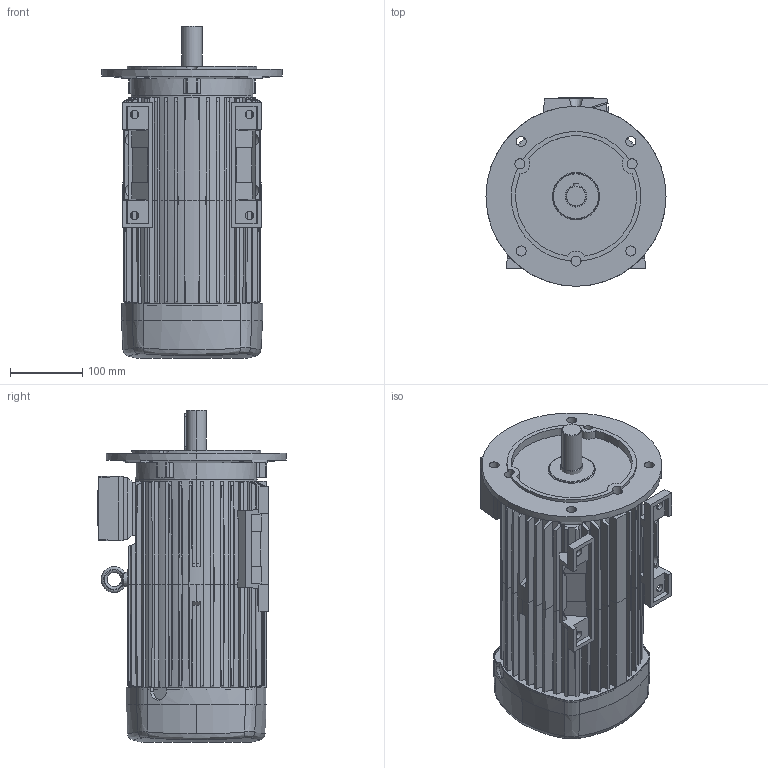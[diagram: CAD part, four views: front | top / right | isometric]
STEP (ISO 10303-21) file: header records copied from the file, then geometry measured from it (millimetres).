
FILE_DESCRIPTION (( 'STEP AP214' ), '1' );
FILE_NAME ('IE3-W41R100LZ4_B35FF215.STEP', '2024-10-22T07:53:12', ( '' ), ( '' ), 'SwSTEP 2.0', 'SolidWorks 2023', '' );
FILE_SCHEMA (( 'AUTOMOTIVE_DESIGN' ));
Length unit declared in the file: millimetre
Products named in the file (10): LHB_Kat_LHB10; Ringschraube_M8; LF_FF_Kat_11FF215; GF100LZ_100_Kat; IE3-W41R100LZ4_B35FF215; WE_Kat_28x60 (BG112); KD05_Kat; KA05_Kat; KA05_komplett_Kat_VSS_2xM20; Verschlussschraube_M20
Assembly tree (10 placements, depth 3):
  IE3-W41R100LZ4_B35FF215
    GF100LZ_100_Kat
    WE_Kat_28x60 (BG112)
    LF_FF_Kat_11FF215
    KA05_komplett_Kat_VSS_2xM20
      KA05_Kat
      KD05_Kat
      Verschlussschraube_M20  x2
    Ringschraube_M8
    LHB_Kat_LHB10
Bounding box: 250 x 262 x 461 mm (x, y, z)
Volume: 11422443.6 mm3; surface area: 783419.4 mm2
Topology: 11 solids, 11 shells, 757 faces, 1927 edges, 1206 vertices
Faces by surface type: plane 457, cone 147, cylinder 125, bspline 16, torus 8, sphere 4
Entity records: 24287 total; most frequent: CARTESIAN_POINT 7007, ORIENTED_EDGE 3776, DIRECTION 3250, EDGE_CURVE 1888, VERTEX_POINT 1180, AXIS2_PLACEMENT_3D 1137, VECTOR 976, LINE 976
